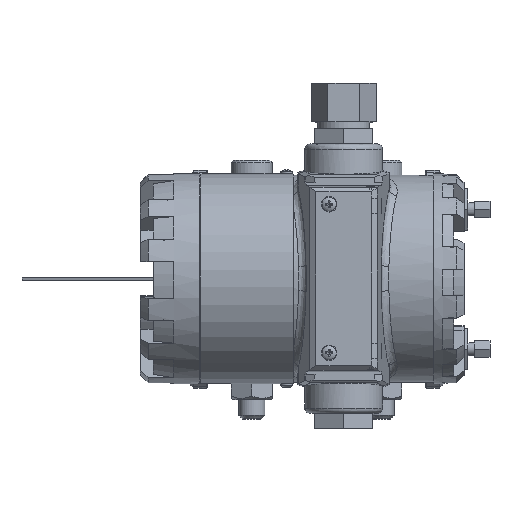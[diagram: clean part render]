
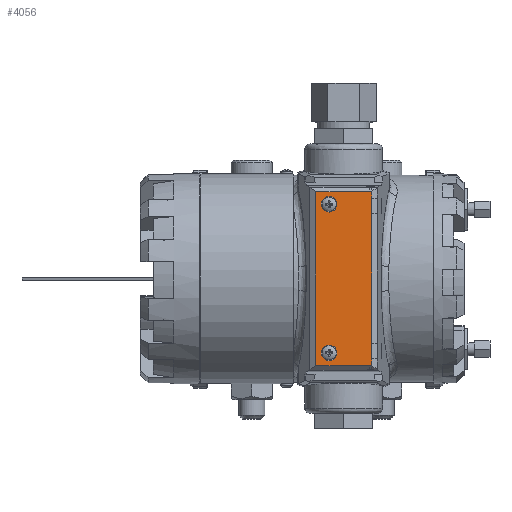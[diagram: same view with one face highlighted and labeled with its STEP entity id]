
A CAD part, top view. The second image highlights one B-rep face of the part: STEP entity #4056.
In plain terms, the highlighted planar face has unit normal (0, 0, 1).
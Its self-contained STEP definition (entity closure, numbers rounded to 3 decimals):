
#4056=ADVANCED_FACE('',(#18001,#18003,#18005),#18007,.T.);
#18001=FACE_BOUND('',#18002,.T.);
#18002=EDGE_LOOP('',(#32065,#32066,#32067,#32068,#32069,#32070,#32071,#32072,#32073,
#32074,#32075,#32076));
#18003=FACE_BOUND('',#18004,.T.);
#18004=EDGE_LOOP('',(#32077));
#18005=FACE_BOUND('',#18006,.T.);
#18006=EDGE_LOOP('',(#32078));
#18007=PLANE('',#18008);
#18008=AXIS2_PLACEMENT_3D('',#18009,#18010,#18011);
#18009=CARTESIAN_POINT('',(0.,0.,142.182));
#18010=DIRECTION('',(0.,0.,1.));
#18011=DIRECTION('',(1.,0.,0.));
#32065=ORIENTED_EDGE('',*,*,#37918,.T.);
#32066=ORIENTED_EDGE('',*,*,#38194,.T.);
#32067=ORIENTED_EDGE('',*,*,#37915,.F.);
#32068=ORIENTED_EDGE('',*,*,#38195,.T.);
#32069=ORIENTED_EDGE('',*,*,#37912,.T.);
#32070=ORIENTED_EDGE('',*,*,#38196,.T.);
#32071=ORIENTED_EDGE('',*,*,#37909,.F.);
#32072=ORIENTED_EDGE('',*,*,#37876,.T.);
#32073=ORIENTED_EDGE('',*,*,#37875,.T.);
#32074=ORIENTED_EDGE('',*,*,#37868,.T.);
#32075=ORIENTED_EDGE('',*,*,#37920,.F.);
#32076=ORIENTED_EDGE('',*,*,#38197,.T.);
#32077=ORIENTED_EDGE('',*,*,#38198,.T.);
#32078=ORIENTED_EDGE('',*,*,#38199,.T.);
#37868=EDGE_CURVE('',#42254,#42255,#42256,.F.);
#37875=EDGE_CURVE('',#42264,#42254,#42266,.T.);
#37876=EDGE_CURVE('',#42267,#42264,#42268,.F.);
#37909=EDGE_CURVE('',#42267,#42320,#42322,.T.);
#37912=EDGE_CURVE('',#42323,#42325,#42327,.F.);
#37915=EDGE_CURVE('',#42330,#42328,#42332,.T.);
#37918=EDGE_CURVE('',#42333,#42335,#42337,.F.);
#37920=EDGE_CURVE('',#42338,#42255,#42340,.T.);
#38194=EDGE_CURVE('',#42335,#42328,#42738,.T.);
#38195=EDGE_CURVE('',#42330,#42323,#42739,.T.);
#38196=EDGE_CURVE('',#42325,#42320,#42740,.T.);
#38197=EDGE_CURVE('',#42338,#42333,#42741,.T.);
#38198=EDGE_CURVE('',#42742,#42742,#42743,.F.);
#38199=EDGE_CURVE('',#42744,#42744,#42745,.F.);
#42254=VERTEX_POINT('',#56100);
#42255=VERTEX_POINT('',#56101);
#42256=LINE('',#56102,#56103);
#42264=VERTEX_POINT('',#56124);
#42266=LINE('',#56128,#56129);
#42267=VERTEX_POINT('',#56131);
#42268=LINE('',#56132,#56133);
#42320=VERTEX_POINT('',#56258);
#42322=LINE('',#56262,#56263);
#42323=VERTEX_POINT('',#56265);
#42325=VERTEX_POINT('',#56269);
#42327=LINE('',#56273,#56274);
#42328=VERTEX_POINT('',#56276);
#42330=VERTEX_POINT('',#56280);
#42332=LINE('',#56284,#56285);
#42333=VERTEX_POINT('',#56287);
#42335=VERTEX_POINT('',#56291);
#42337=LINE('',#56295,#56296);
#42338=VERTEX_POINT('',#56298);
#42340=LINE('',#56302,#56303);
#42738=LINE('',#57533,#57534);
#42739=LINE('',#57536,#57537);
#42740=LINE('',#57539,#57540);
#42741=LINE('',#57542,#57543);
#42742=VERTEX_POINT('',#57545);
#42743=CIRCLE('',#57546,3.);
#42744=VERTEX_POINT('',#57550);
#42745=CIRCLE('',#57551,3.);
#56100=CARTESIAN_POINT('',(-0.267,-33.589,142.182));
#56101=CARTESIAN_POINT('',(21.267,-33.589,142.182));
#56102=CARTESIAN_POINT('',(21.267,-33.589,142.182));
#56103=VECTOR('',#56104,1.);
#56104=DIRECTION('',(-1.,0.,0.));
#56124=CARTESIAN_POINT('',(-0.267,33.589,142.182));
#56128=CARTESIAN_POINT('',(-0.267,33.589,142.182));
#56129=VECTOR('',#56130,1.);
#56130=DIRECTION('',(0.,-1.,0.));
#56131=CARTESIAN_POINT('',(21.267,33.589,142.182));
#56132=CARTESIAN_POINT('',(-0.267,33.589,142.182));
#56133=VECTOR('',#56134,1.);
#56134=DIRECTION('',(1.,0.,0.));
#56258=CARTESIAN_POINT('',(21.267,31.,142.182));
#56262=CARTESIAN_POINT('',(21.267,33.589,142.182));
#56263=VECTOR('',#56264,1.);
#56264=DIRECTION('',(0.,-1.,0.));
#56265=CARTESIAN_POINT('',(21.267,25.,142.182));
#56269=CARTESIAN_POINT('',(21.267,31.,142.182));
#56273=CARTESIAN_POINT('',(21.267,31.,142.182));
#56274=VECTOR('',#56275,1.);
#56275=DIRECTION('',(0.,-1.,0.));
#56276=CARTESIAN_POINT('',(21.267,-25.,142.182));
#56280=CARTESIAN_POINT('',(21.267,25.,142.182));
#56284=CARTESIAN_POINT('',(21.267,25.,142.182));
#56285=VECTOR('',#56286,1.);
#56286=DIRECTION('',(0.,-1.,0.));
#56287=CARTESIAN_POINT('',(21.267,-31.,142.182));
#56291=CARTESIAN_POINT('',(21.267,-25.,142.182));
#56295=CARTESIAN_POINT('',(21.267,-25.,142.182));
#56296=VECTOR('',#56297,1.);
#56297=DIRECTION('',(0.,-1.,0.));
#56298=CARTESIAN_POINT('',(21.267,-31.,142.182));
#56302=CARTESIAN_POINT('',(21.267,-31.,142.182));
#56303=VECTOR('',#56304,1.);
#56304=DIRECTION('',(0.,-1.,0.));
#57533=CARTESIAN_POINT('',(21.267,-25.,142.182));
#57534=VECTOR('',#57535,1.);
#57535=DIRECTION('',(-1.,0.,0.));
#57536=CARTESIAN_POINT('',(21.267,25.,142.182));
#57537=VECTOR('',#57538,1.);
#57538=DIRECTION('',(1.,0.,0.));
#57539=CARTESIAN_POINT('',(21.267,31.,142.182));
#57540=VECTOR('',#57541,1.);
#57541=DIRECTION('',(-1.,0.,0.));
#57542=CARTESIAN_POINT('',(21.267,-31.,142.182));
#57543=VECTOR('',#57544,1.);
#57544=DIRECTION('',(1.,0.,0.));
#57545=CARTESIAN_POINT('',(1.88,-28.689,142.182));
#57546=AXIS2_PLACEMENT_3D('',#57547,#57548,#57549);
#57547=CARTESIAN_POINT('',(4.88,-28.689,142.182));
#57548=DIRECTION('',(0.,0.,1.));
#57549=DIRECTION('',(-1.,0.,0.));
#57550=CARTESIAN_POINT('',(1.88,28.689,142.182));
#57551=AXIS2_PLACEMENT_3D('',#57552,#57553,#57554);
#57552=CARTESIAN_POINT('',(4.88,28.689,142.182));
#57553=DIRECTION('',(0.,0.,1.));
#57554=DIRECTION('',(-1.,0.,0.));
